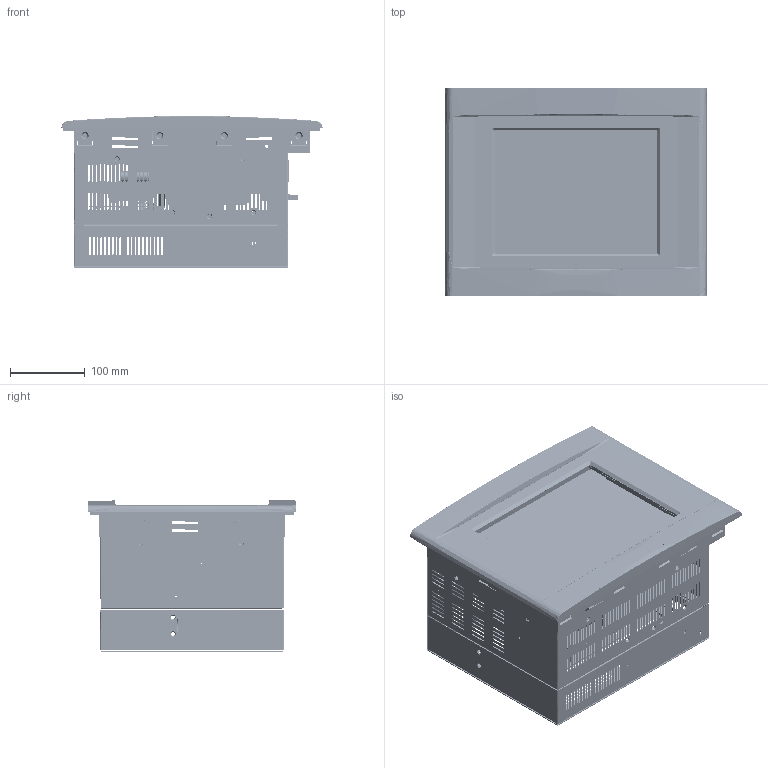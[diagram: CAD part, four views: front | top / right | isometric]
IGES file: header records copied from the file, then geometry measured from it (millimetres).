
Start section:  PTC IGES file: day_10_pci.igs
Global section: file name: day_10_pci.igs; native system: Pro/ENGINEER by Parametric Technology Corporation; preprocessor: 2000100; author: srollman; organization: Unknown; date: 050106.162255; units: inch
Bounding box: 350.01 x 279.4 x 203.27 mm (x, y, z)
Surface area: 1246153.8 mm2 (no closed solid volume)
Topology: 0 solids, 0 shells, 949 faces, 11986 edges, 11983 vertices
Faces by surface type: bspline 747, revolution 202
